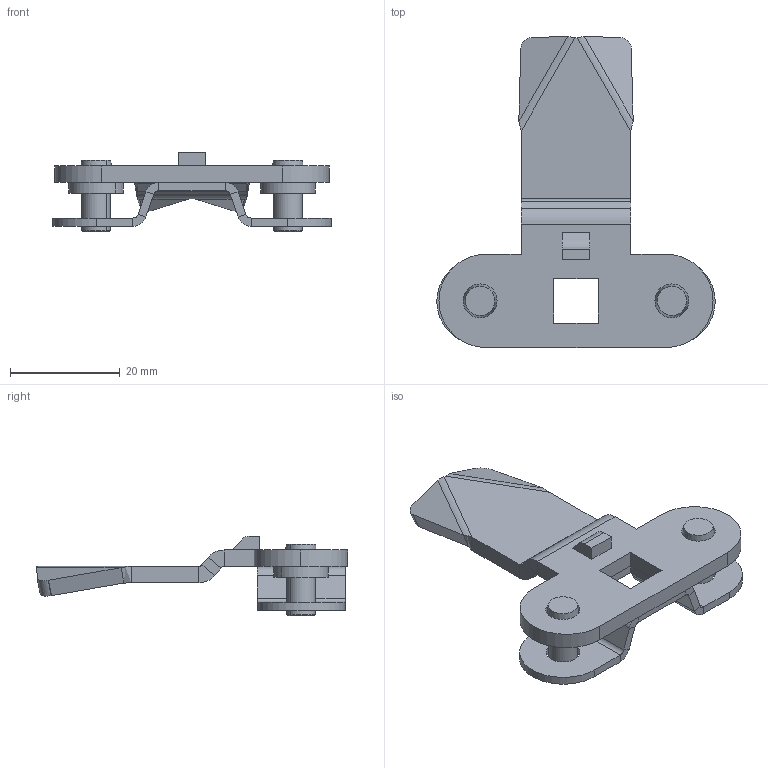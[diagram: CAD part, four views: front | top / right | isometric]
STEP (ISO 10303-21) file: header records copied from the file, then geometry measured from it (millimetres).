
FILE_DESCRIPTION (( 'STEP AP203' ), '1' );
FILE_NAME ('1C.JN-375.21.48.STEP', '2008-06-16T09:54:12', ( '£ukaszC' ), ( '' ), 'SwSTEP 2.0', 'SolidWorks 2008', '' );
FILE_SCHEMA (( 'CONFIG_CONTROL_DESIGN' ));
Length unit declared in the file: millimetre
Products named in the file (5): 1C.MZ1.05.01.00_Domyœlna; 1C.JN-375.21.48.01; 1C.JN-375.21.48; 1C.909.001_Domyœlna
Assembly tree (4 placements, depth 2):
  1C.JN-375.21.48
    1C.MZ1.05.01.00_Domyœlna
    1C.JN-375.21.48.01
    1C.909.001_Domyœlna
    1C.MZ1.05.01.00_Domyœlna
Bounding box: 50.8 x 56.75 x 14.5 mm (x, y, z)
Volume: 6394.5 mm3; surface area: 6448.8 mm2
Topology: 4 solids, 4 shells, 135 faces, 295 edges, 174 vertices
Faces by surface type: plane 81, cylinder 42, cone 8, bspline 4
Entity records: 4184 total; most frequent: CARTESIAN_POINT 679, DIRECTION 643, ORIENTED_EDGE 590, EDGE_CURVE 295, AXIS2_PLACEMENT_3D 226, VECTOR 191, LINE 191, VERTEX_POINT 174
